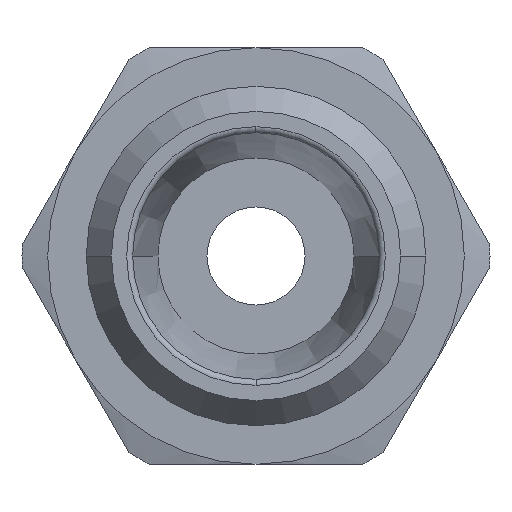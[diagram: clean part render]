
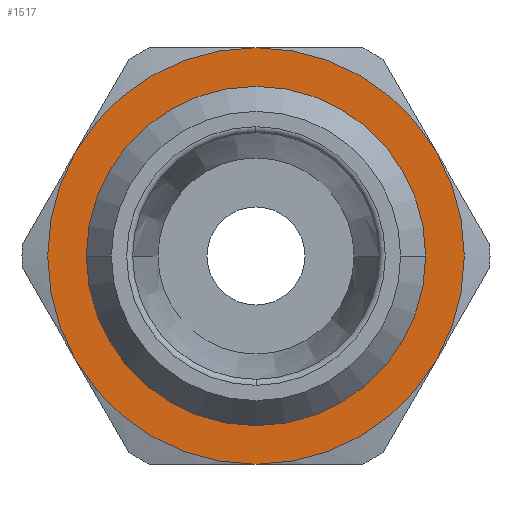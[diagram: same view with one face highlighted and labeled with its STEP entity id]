
A CAD part, left-side view. The second image highlights one B-rep face of the part: STEP entity #1517.
In plain terms, the highlighted planar face has unit normal (-1, 0, 0) as drawn and (0, 0, 1) by its records, which use the part's own axes.
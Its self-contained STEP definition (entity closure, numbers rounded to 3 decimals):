
#317=CARTESIAN_POINT('',(-6.8,0.,2.5));
#318=VERTEX_POINT('',#317);
#344=CARTESIAN_POINT('',(6.8,0.,2.5));
#345=VERTEX_POINT('',#344);
#353=CARTESIAN_POINT('',(0.,0.,2.5));
#354=DIRECTION('',(0.0,0.0,1.0));
#355=DIRECTION('',(-1.0,0.0,0.0));
#356=AXIS2_PLACEMENT_3D('',#353,#354,#355);
#357=CIRCLE('',#356,6.8);
#358=EDGE_CURVE('',#345,#318,#357,.T.);
#1397=CARTESIAN_POINT('',(0.,-6.8,2.5));
#1398=VERTEX_POINT('',#1397);
#1399=CARTESIAN_POINT('',(0.,0.,2.5));
#1400=DIRECTION('',(0.0,0.0,1.0));
#1401=DIRECTION('',(-1.0,0.0,0.0));
#1402=AXIS2_PLACEMENT_3D('',#1399,#1400,#1401);
#1403=CIRCLE('',#1402,6.8);
#1404=EDGE_CURVE('',#318,#1398,#1403,.T.);
#1406=CARTESIAN_POINT('',(0.,0.,2.5));
#1407=DIRECTION('',(0.0,0.0,1.0));
#1408=DIRECTION('',(-1.0,0.0,0.0));
#1409=AXIS2_PLACEMENT_3D('',#1406,#1407,#1408);
#1410=CIRCLE('',#1409,6.8);
#1411=EDGE_CURVE('',#1398,#345,#1410,.T.);
#1451=CARTESIAN_POINT('',(0.0,0.,2.5));
#1452=DIRECTION('',(0.0,0.0,1.0));
#1453=DIRECTION('',(1.0,0.0,0.0));
#1454=AXIS2_PLACEMENT_3D('',#1451,#1452,#1453);
#1455=PLANE('',#1454);
#1456=CARTESIAN_POINT('',(4.25,-7.361,2.5));
#1457=VERTEX_POINT('',#1456);
#1458=CARTESIAN_POINT('',(8.5,0.0,2.5));
#1459=VERTEX_POINT('',#1458);
#1460=CARTESIAN_POINT('',(0.,0.0,2.5));
#1461=DIRECTION('',(0.0,0.0,1.0));
#1462=DIRECTION('',(1.0,0.0,0.0));
#1463=AXIS2_PLACEMENT_3D('',#1460,#1461,#1462);
#1464=CIRCLE('',#1463,8.5);
#1465=EDGE_CURVE('',#1457,#1459,#1464,.T.);
#1466=ORIENTED_EDGE('',*,*,#1465,.T.);
#1467=CARTESIAN_POINT('',(4.25,7.361,2.5));
#1468=VERTEX_POINT('',#1467);
#1469=CARTESIAN_POINT('',(0.,0.0,2.5));
#1470=DIRECTION('',(0.0,0.0,1.0));
#1471=DIRECTION('',(1.0,0.0,0.0));
#1472=AXIS2_PLACEMENT_3D('',#1469,#1470,#1471);
#1473=CIRCLE('',#1472,8.5);
#1474=EDGE_CURVE('',#1459,#1468,#1473,.T.);
#1475=ORIENTED_EDGE('',*,*,#1474,.T.);
#1476=CARTESIAN_POINT('',(-4.25,7.361,2.5));
#1477=VERTEX_POINT('',#1476);
#1478=CARTESIAN_POINT('',(0.,0.0,2.5));
#1479=DIRECTION('',(0.0,0.0,1.0));
#1480=DIRECTION('',(1.0,0.0,0.0));
#1481=AXIS2_PLACEMENT_3D('',#1478,#1479,#1480);
#1482=CIRCLE('',#1481,8.5);
#1483=EDGE_CURVE('',#1468,#1477,#1482,.T.);
#1484=ORIENTED_EDGE('',*,*,#1483,.T.);
#1485=CARTESIAN_POINT('',(-8.5,0.,2.5));
#1486=VERTEX_POINT('',#1485);
#1487=CARTESIAN_POINT('',(0.,0.0,2.5));
#1488=DIRECTION('',(0.0,0.0,1.0));
#1489=DIRECTION('',(1.0,0.0,0.0));
#1490=AXIS2_PLACEMENT_3D('',#1487,#1488,#1489);
#1491=CIRCLE('',#1490,8.5);
#1492=EDGE_CURVE('',#1477,#1486,#1491,.T.);
#1493=ORIENTED_EDGE('',*,*,#1492,.T.);
#1494=CARTESIAN_POINT('',(-4.25,-7.361,2.5));
#1495=VERTEX_POINT('',#1494);
#1496=CARTESIAN_POINT('',(0.,0.0,2.5));
#1497=DIRECTION('',(0.0,0.0,1.0));
#1498=DIRECTION('',(1.0,0.0,0.0));
#1499=AXIS2_PLACEMENT_3D('',#1496,#1497,#1498);
#1500=CIRCLE('',#1499,8.5);
#1501=EDGE_CURVE('',#1486,#1495,#1500,.T.);
#1502=ORIENTED_EDGE('',*,*,#1501,.T.);
#1503=CARTESIAN_POINT('',(0.,0.0,2.5));
#1504=DIRECTION('',(0.0,0.0,1.0));
#1505=DIRECTION('',(1.0,0.0,0.0));
#1506=AXIS2_PLACEMENT_3D('',#1503,#1504,#1505);
#1507=CIRCLE('',#1506,8.5);
#1508=EDGE_CURVE('',#1495,#1457,#1507,.T.);
#1509=ORIENTED_EDGE('',*,*,#1508,.T.);
#1510=EDGE_LOOP('',(#1466,#1475,#1484,#1493,#1502,#1509));
#1511=FACE_OUTER_BOUND('',#1510,.T.);
#1512=ORIENTED_EDGE('',*,*,#1411,.F.);
#1513=ORIENTED_EDGE('',*,*,#1404,.F.);
#1514=ORIENTED_EDGE('',*,*,#358,.F.);
#1515=EDGE_LOOP('',(#1512,#1513,#1514));
#1516=FACE_BOUND('',#1515,.T.);
#1517=ADVANCED_FACE('',(#1511,#1516),#1455,.T.);
